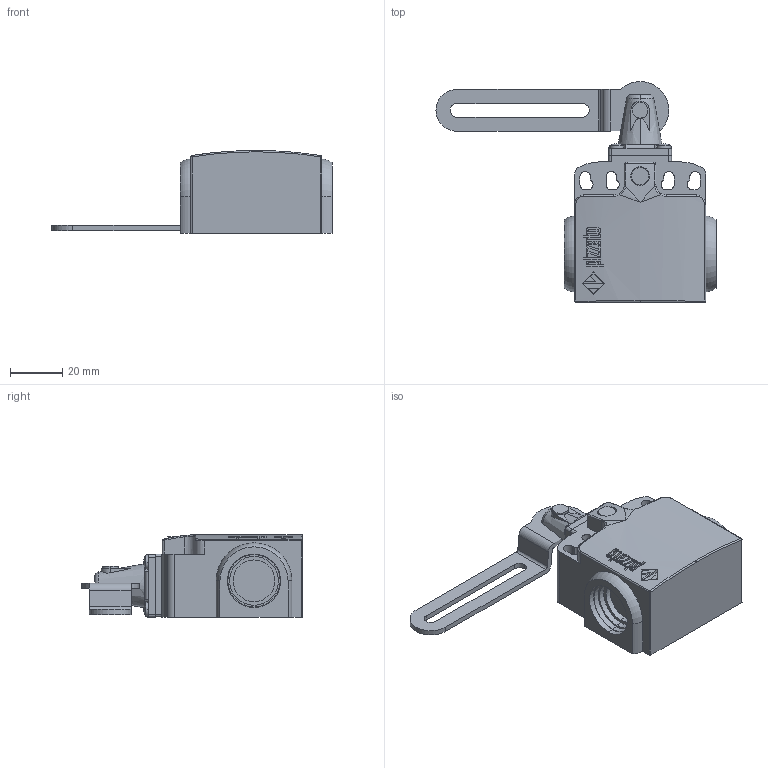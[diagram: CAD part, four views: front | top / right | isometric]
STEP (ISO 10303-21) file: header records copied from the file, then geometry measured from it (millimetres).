
FILE_DESCRIPTION (( 'STEP AP203' ), '1' );
FILE_NAME ('ZF_STEP_FX_xC3.STEP', '2024-01-09T17:45:04', ( '' ), ( '' ), 'SwSTEP 2.0', 'SolidWorks 2020', '' );
FILE_SCHEMA (( 'CONFIG_CONTROL_DESIGN' ));
Length unit declared in the file: millimetre
Products named in the file (6): Pizzato_Custodia_FX_3dweb; ZF_STEP_VF_TEC3; Pizzato_LEC3; ZF_STEP_FX_xC3; Pizzato_Supporto_TECx
Assembly tree (5 placements, depth 3):
  ZF_STEP_FX_xC3
    Pizzato_Custodia_FX_3dweb
      Pizzato_Custodia_FX_3dweb
    ZF_STEP_VF_TEC3
      Pizzato_Supporto_TECx
      Pizzato_LEC3
Bounding box: 107 x 84.37 x 31.7 mm (x, y, z)
Volume: 86018.7 mm3; surface area: 22071.4 mm2
Topology: 3 solids, 3 shells, 514 faces, 1351 edges, 886 vertices
Faces by surface type: plane 266, bspline 119, cylinder 106, torus 11, sphere 10, cone 2
Entity records: 20702 total; most frequent: CARTESIAN_POINT 8041, ORIENTED_EDGE 2694, DIRECTION 2154, EDGE_CURVE 1347, VERTEX_POINT 886, VECTOR 784, LINE 784, AXIS2_PLACEMENT_3D 685
